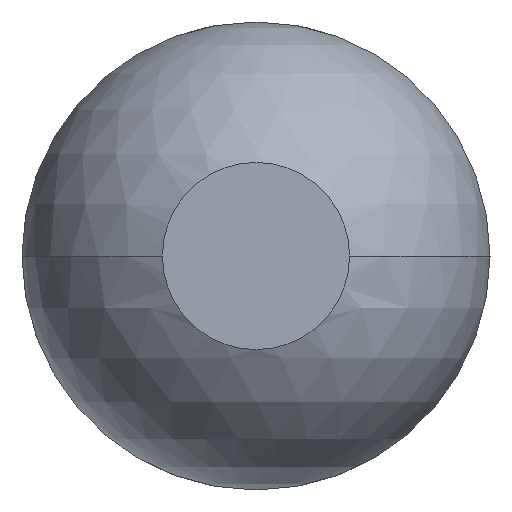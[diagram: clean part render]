
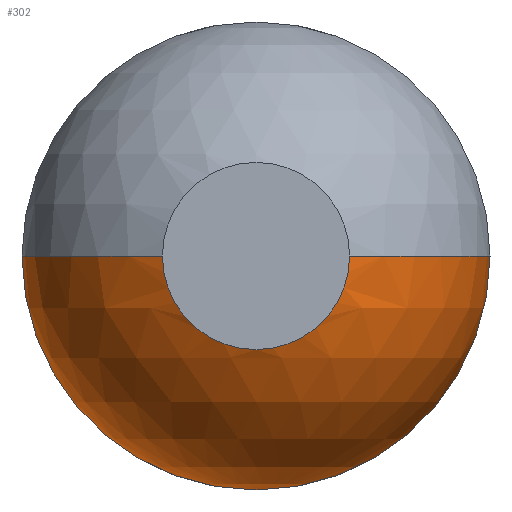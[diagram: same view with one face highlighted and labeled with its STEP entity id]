
A CAD part, left-side view. The second image highlights one B-rep face of the part: STEP entity #302.
In plain terms, the highlighted spherical face has radius 0.254 mm.
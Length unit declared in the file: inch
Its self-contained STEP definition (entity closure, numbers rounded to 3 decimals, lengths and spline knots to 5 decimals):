
#16 = CIRCLE ( 'NONE', #493, 0.004 ) ;
#19 = CARTESIAN_POINT ( 'NONE',  ( 0.00917, 0., 0. ) ) ;
#20 = VERTEX_POINT ( 'NONE', #355 ) ;
#26 = VERTEX_POINT ( 'NONE', #110 ) ;
#47 = SPHERICAL_SURFACE ( 'NONE', #728, 0.01 ) ;
#77 = ORIENTED_EDGE ( 'NONE', *, *, #287, .T. ) ;
#90 = VERTEX_POINT ( 'NONE', #374 ) ;
#110 = CARTESIAN_POINT ( 'NONE',  ( 0., 0.004, 0. ) ) ;
#119 = CIRCLE ( 'NONE', #744, 0.01 ) ;
#155 = CIRCLE ( 'NONE', #665, 0.01 ) ;
#198 = DIRECTION ( 'NONE',  ( 0., 0., 1. ) ) ;
#207 = EDGE_LOOP ( 'NONE', ( #531, #77, #521, #595, #312 ) ) ;
#215 = CARTESIAN_POINT ( 'NONE',  ( 0.00917, 0., 0. ) ) ;
#229 = EDGE_CURVE ( 'NONE', #513, #90, #754, .T. ) ;
#254 = DIRECTION ( 'NONE',  ( -1., 0., 0. ) ) ;
#275 = EDGE_CURVE ( 'NONE', #26, #740, #16, .T. ) ;
#280 = DIRECTION ( 'NONE',  ( -1., 0., 0. ) ) ;
#281 = EDGE_CURVE ( 'NONE', #513, #26, #155, .T. ) ;
#287 = EDGE_CURVE ( 'NONE', #20, #740, #456, .T. ) ;
#302 = ADVANCED_FACE ( 'NONE', ( #344 ), #47, .T. ) ;
#312 = ORIENTED_EDGE ( 'NONE', *, *, #229, .T. ) ;
#330 = DIRECTION ( 'NONE',  ( 0., 0., 1. ) ) ;
#344 = FACE_OUTER_BOUND ( 'NONE', #207, .T. ) ;
#355 = CARTESIAN_POINT ( 'NONE',  ( 0.00917, -0.01, 0. ) ) ;
#374 = CARTESIAN_POINT ( 'NONE',  ( 0.00917, 0., -0.01 ) ) ;
#380 = CARTESIAN_POINT ( 'NONE',  ( 0.00917, 0., 0. ) ) ;
#388 = DIRECTION ( 'NONE',  ( 0., 0., 1. ) ) ;
#403 = CARTESIAN_POINT ( 'NONE',  ( 0., -0.004, 0. ) ) ;
#456 = CIRCLE ( 'NONE', #600, 0.01 ) ;
#493 = AXIS2_PLACEMENT_3D ( 'NONE', #639, #280, #781 ) ;
#503 = DIRECTION ( 'NONE',  ( -1., 0., 0. ) ) ;
#513 = VERTEX_POINT ( 'NONE', #717 ) ;
#521 = ORIENTED_EDGE ( 'NONE', *, *, #275, .F. ) ;
#524 = DIRECTION ( 'NONE',  ( 0., 1., 0. ) ) ;
#530 = DIRECTION ( 'NONE',  ( 0., 0., -1. ) ) ;
#531 = ORIENTED_EDGE ( 'NONE', *, *, #691, .T. ) ;
#590 = DIRECTION ( 'NONE',  ( 0., 1., 0. ) ) ;
#595 = ORIENTED_EDGE ( 'NONE', *, *, #281, .F. ) ;
#600 = AXIS2_PLACEMENT_3D ( 'NONE', #768, #702, #524 ) ;
#639 = CARTESIAN_POINT ( 'NONE',  ( 0., 0., 0. ) ) ;
#649 = AXIS2_PLACEMENT_3D ( 'NONE', #19, #254, #198 ) ;
#653 = DIRECTION ( 'NONE',  ( 1., 0., 0. ) ) ;
#665 = AXIS2_PLACEMENT_3D ( 'NONE', #771, #330, #653 ) ;
#691 = EDGE_CURVE ( 'NONE', #90, #20, #119, .T. ) ;
#702 = DIRECTION ( 'NONE',  ( 0., 0., -1. ) ) ;
#717 = CARTESIAN_POINT ( 'NONE',  ( 0.00917, 0.01, 0. ) ) ;
#728 = AXIS2_PLACEMENT_3D ( 'NONE', #215, #530, #590 ) ;
#740 = VERTEX_POINT ( 'NONE', #403 ) ;
#744 = AXIS2_PLACEMENT_3D ( 'NONE', #380, #503, #388 ) ;
#754 = CIRCLE ( 'NONE', #649, 0.01 ) ;
#768 = CARTESIAN_POINT ( 'NONE',  ( 0.00917, 0., 0. ) ) ;
#771 = CARTESIAN_POINT ( 'NONE',  ( 0.00917, 0., 0. ) ) ;
#781 = DIRECTION ( 'NONE',  ( 0., 0., 1. ) ) ;
